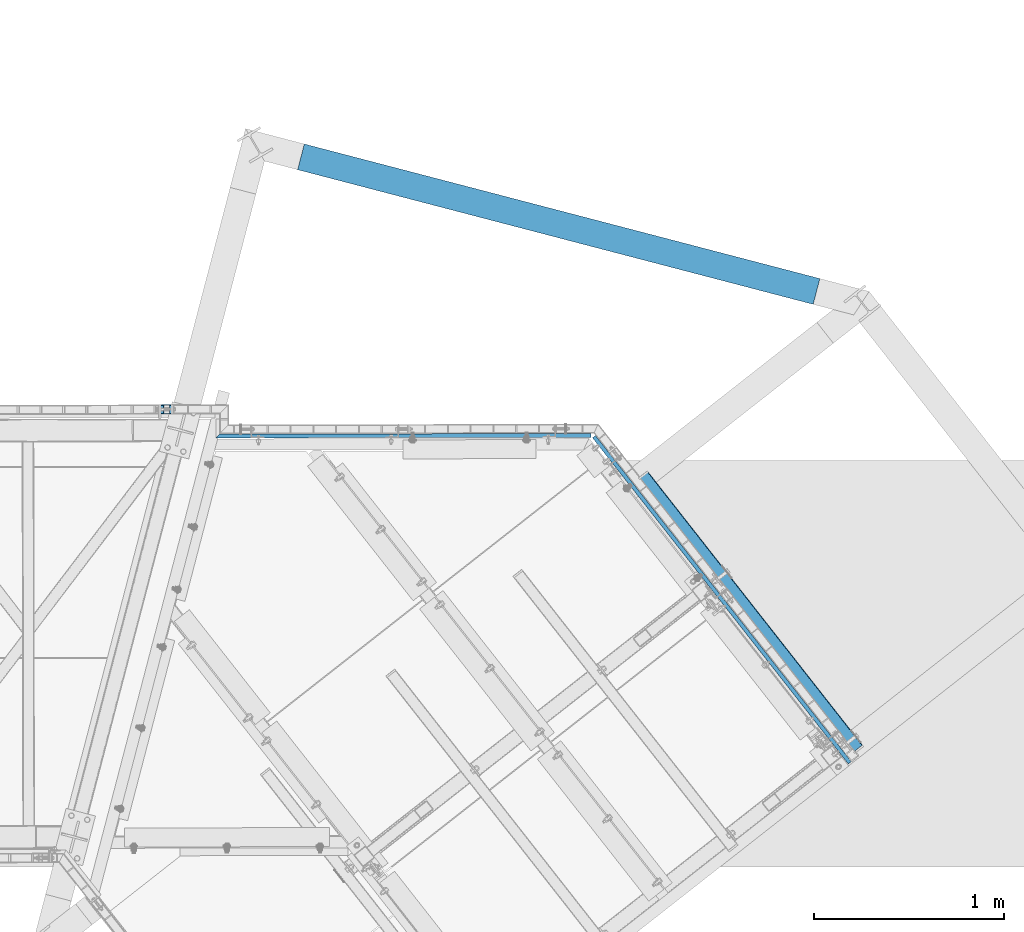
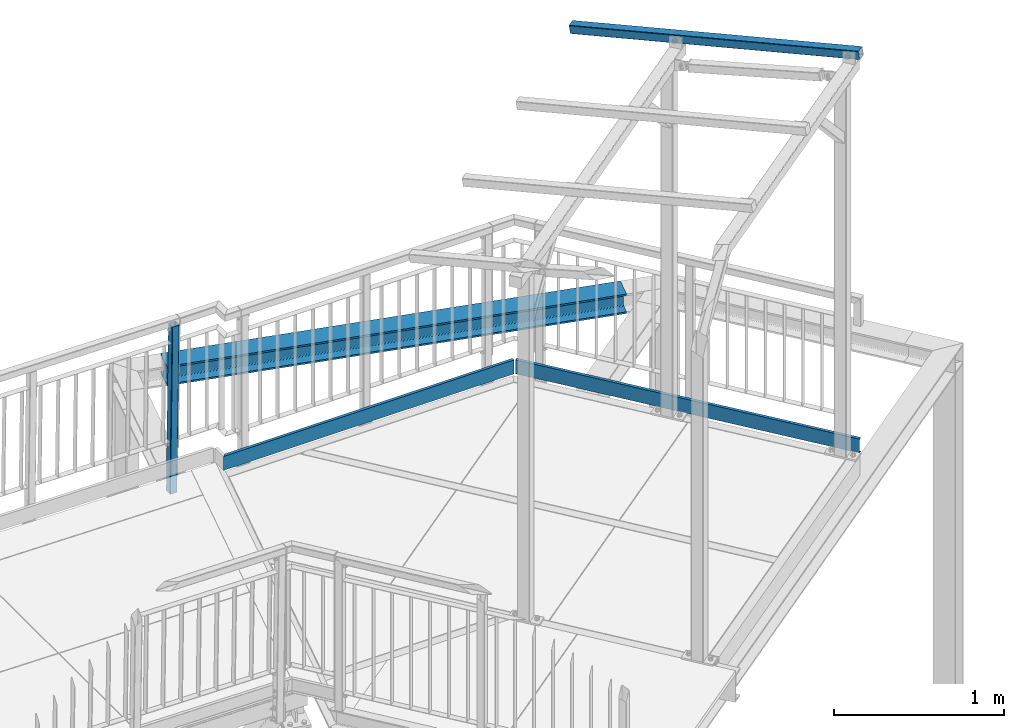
# One storey, part 20 of 169: 4 beams, 1 member, 5 elements without a shape of their own.
"""IFC2X3 building model written with IfcOpenShell, lengths in millimetres."""

from ifc_helpers import new_model, si_unit, frame, origin_with_axes, origin_2d_with_axis, place, context, subcontext, project, spatial, hollow_rectangle, i_section, u_section, extrude, clip, halfspace, material, type_object, element, aggregate, save


model = new_model("IFC2X3")

# Units and contexts
model_context = context("Model", 3, precision=1e-05, world=origin_with_axes())
body_context = subcontext(model_context, "Body", "Model", "MODEL_VIEW")
ifc_project = project(units=[si_unit("LENGTHUNIT", "METRE", prefix="MILLI"), si_unit("AREAUNIT", "SQUARE_METRE"), si_unit("VOLUMEUNIT", "CUBIC_METRE"), si_unit("MASSUNIT", "GRAM", prefix="KILO"), si_unit("TIMEUNIT", "SECOND"), si_unit("PLANEANGLEUNIT", "RADIAN"), si_unit("SOLIDANGLEUNIT", "STERADIAN"), si_unit("THERMODYNAMICTEMPERATUREUNIT", "DEGREE_CELSIUS"), si_unit("LUMINOUSINTENSITYUNIT", "LUMEN")], contexts=[model_context])

# Site, building, storey
site_placement = place(None, origin_with_axes())
site = spatial("IfcSite", under=ifc_project, at=site_placement, Name="Undefined", CompositionType="ELEMENT")
building_placement = place(site_placement, origin_with_axes())
building = spatial("IfcBuilding", under=site, at=building_placement, Name="Undefined", CompositionType="ELEMENT")
storey_placement = place(building_placement, origin_with_axes())
storey = spatial("IfcBuildingStorey", under=building, at=storey_placement, Name="Undefined", CompositionType="ELEMENT", Elevation=0.0)

# Assembly, beam
assembly_1_placement = place(storey_placement, origin_with_axes())
assembly_1 = element("IfcElementAssembly", 1, at=assembly_1_placement, inside=storey, Name="Steel Assembly", AssemblyPlace="NOTDEFINED", PredefinedType="RIGID_FRAME")
ifc_material_1 = material(Name="STEEL/S235JR")
beam_type_1 = type_object("IfcBeamType", Name="C100*20*2", PredefinedType="NOTDEFINED")
beam_1_placement = place(assembly_1_placement, frame((21157.5099619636, 2253.53031175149, 13850.4175011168), z_axis=(0.0, 0.0, 1.0), x_axis=(-0.999998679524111, -0.00162509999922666, -1.66000000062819e-07)))
beam_1 = element("IfcBeam", 2, at=beam_1_placement, type_object=beam_type_1, material=ifc_material_1, Name="KICK_PLATE", ObjectType="C100*20*2", context=body_context, shape_type="Clipping", body=[
    clip(extrude(u_section(Depth=100.0, FlangeWidth=20.0, WebThickness=2.0, FlangeThickness=2.0, FilletRadius=3.0, at=origin_2d_with_axis()), frame((1975.13287980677, -4.55042127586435e-13, -1.81898935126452e-12), z_axis=(-1.0, -3.46944695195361e-18, -1.38777878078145e-17), x_axis=(1.73472347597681e-18, -1.0, 0.0)), (0.0, 0.0, 1.0), 1975.13), halfspace(frame((1955.00203754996, -9.99998847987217, 1.05646904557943e-08), z_axis=(-0.707142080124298, 0.707071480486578, -4.95708108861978e-11), x_axis=(-2.54700353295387e-10, 0.0, -1.0)), True)),
])
aggregate(assembly_1, [beam_1])

assembly_2_placement = place(storey_placement, origin_with_axes())
assembly_2 = element("IfcElementAssembly", 3, at=assembly_2_placement, inside=storey, Name="Steel Assembly", AssemblyPlace="NOTDEFINED", PredefinedType="RIGID_FRAME")
beam_2_placement = place(assembly_2_placement, frame((22519.4247981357, 530.322439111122, 13850.4178013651), z_axis=(0.0, 0.0, 1.0), x_axis=(-0.617242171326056, 0.786773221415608, 5.09999997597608e-08)))
beam_2 = element("IfcBeam", 4, at=beam_2_placement, type_object=beam_type_1, material=ifc_material_1, Name="KICK_PLATE", ObjectType="C100*20*2", context=body_context, shape_type="SweptSolid", body=[
    extrude(u_section(Depth=100.0, FlangeWidth=20.0, WebThickness=2.0, FlangeThickness=2.0, FilletRadius=3.0, at=origin_2d_with_axis()), frame((2181.9999999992, -1.08057001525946e-13, -1.81898940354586e-12), z_axis=(-1.0, -3.46944695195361e-18, -1.38777878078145e-17), x_axis=(1.73472347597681e-18, -1.0, 0.0)), (0.0, 0.0, 1.0), 2182.0),
])
aggregate(assembly_2, [beam_2])

# Assembly, member
assembly_3_placement = place(storey_placement, origin_with_axes())
assembly_3 = element("IfcElementAssembly", 5, at=assembly_3_placement, inside=storey, Name="Steel Assembly", AssemblyPlace="NOTDEFINED", PredefinedType="RIGID_FRAME")
ifc_material_2 = material(Name="STEEL/S235")
member_type = type_object("IfcMemberType", Name="SHS50*3", PredefinedType="NOTDEFINED")
member_placement = place(assembly_3_placement, frame((18917.8671134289, 2390.29708209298, 13773.6983493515), z_axis=(-0.0018648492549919, 0.999998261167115, -4.2996762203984e-08), x_axis=(0.012713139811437, 2.3750999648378e-05, 0.999919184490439)))
member = element("IfcMember", 6, at=member_placement, type_object=member_type, material=ifc_material_2, Name="STANCHION", ObjectType="SHS50*3", context=body_context, shape_type="Clipping", body=[
    clip(clip(extrude(hollow_rectangle(XDim=50.0, YDim=50.0, WallThickness=3.0, InnerFilletRadius=3.0, OuterFilletRadius=6.0, at=origin_2d_with_axis()), frame((1074.99999999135, -5.68489533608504e-14, -9.13224357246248e-13), z_axis=(-1.0, -3.46944695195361e-18, -1.38777878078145e-17), x_axis=(1.73472347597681e-18, -1.0, 0.0)), (0.0, 0.0, 1.0), 1195.0), halfspace(frame((1074.99999999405, -25.000000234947, -7.63429852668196e-09), z_axis=(1.0, 0.0, 0.0), x_axis=(0.0, 0.0, 1.0)), False)), halfspace(frame((-120.000000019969, -1025.00000000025, -5.14306819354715e-10), z_axis=(1.0, 0.0, 0.0), x_axis=(0.0, 0.0, 1.0)), True)),
])
aggregate(assembly_3, [member])

# Assembly, beam
assembly_4_placement = place(storey_placement, origin_with_axes())
assembly_4 = element("IfcElementAssembly", 7, at=assembly_4_placement, inside=storey, Name="Steel Assembly", AssemblyPlace="NOTDEFINED", PredefinedType="RIGID_FRAME")
beam_type_2 = type_object("IfcBeamType", Name="SHS60*3", PredefinedType="NOTDEFINED")
beam_3_placement = place(assembly_4_placement, frame((22565.3339899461, 601.412602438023, 16607.0941983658), z_axis=(0.0968806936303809, -0.123489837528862, -0.987605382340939), x_axis=(-0.6095916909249, 0.777021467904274, -0.156957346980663)))
beam_3 = element("IfcBeam", 8, at=beam_3_placement, type_object=beam_type_2, material=ifc_material_2, Name="BEAM", ObjectType="SHS60*3", context=body_context, shape_type="SweptSolid", body=[
    extrude(hollow_rectangle(XDim=60.0, YDim=60.0, WallThickness=3.0, InnerFilletRadius=3.0, OuterFilletRadius=6.0, at=origin_2d_with_axis()), frame((1856.51251667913, -3.83076606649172e-12, -5.15285735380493e-14), z_axis=(-1.0, -3.46944695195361e-18, -1.38777878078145e-17), x_axis=(1.73472347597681e-18, -1.0, 0.0)), (0.0, 0.0, 1.0), 1856.51),
])
aggregate(assembly_4, [beam_3])

assembly_5_placement = place(storey_placement, origin_with_axes())
assembly_5 = element("IfcElementAssembly", 9, at=assembly_5_placement, inside=storey, Name="Steel Assembly", AssemblyPlace="NOTDEFINED", PredefinedType="RIGID_FRAME")
ifc_material_3 = material(Name="STEEL/S355")
beam_type_3 = type_object("IfcBeamType", Name="HEB140", PredefinedType="NOTDEFINED")
beam_4_placement = place(assembly_5_placement, frame((19630.3828968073, 3719.81551183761, 13470.4171750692), z_axis=(-2.54700353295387e-10, 0.0, -1.0), x_axis=(0.967563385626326, -0.252628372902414, 0.0)))
beam_4 = element("IfcBeam", 10, at=beam_4_placement, type_object=beam_type_3, material=ifc_material_3, Name="BEAM", ObjectType="HEB140", context=body_context, shape_type="SweptSolid", body=[
    extrude(i_section(OverallWidth=140.0, OverallDepth=140.0, WebThickness=7.0, FlangeThickness=12.0, FilletRadius=12.0, at=origin_2d_with_axis()), frame((2805.00000009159, -8.09521861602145e-14, 1.81898947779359e-12), z_axis=(-1.0, -3.46944695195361e-18, -1.38777878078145e-17), x_axis=(1.73472347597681e-18, -1.0, 0.0)), (0.0, 0.0, 1.0), 2805.0),
])
aggregate(assembly_5, [beam_4])

save(model, "model.ifc")
